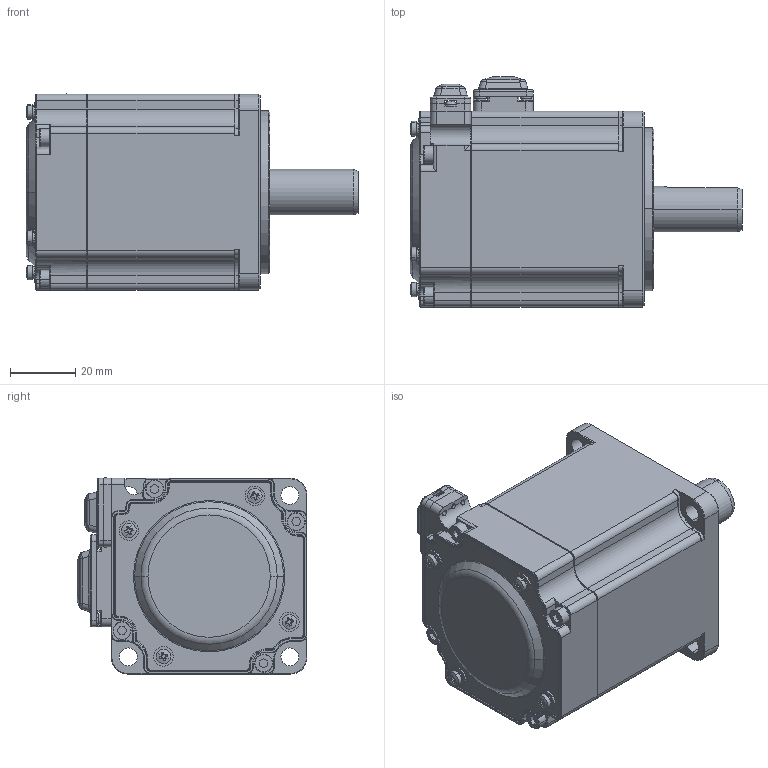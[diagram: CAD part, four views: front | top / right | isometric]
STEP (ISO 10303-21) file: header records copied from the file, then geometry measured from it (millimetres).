
FILE_DESCRIPTION (( 'STEP AP214' ), '1' );
FILE_NAME ('200W眻脣萇儂.STEP', '2024-10-13T07:36:35', ( 'Windows 蚚誧' ), ( 'Organization' ), 'SwSTEP 2.0', 'SolidWorks 2021', '' );
FILE_SCHEMA (( 'AUTOMOTIVE_DESIGN' ));
Length unit declared in the file: millimetre
Products named in the file (1): 200W眻脣萇儂
Bounding box: 101.8 x 70.5 x 60.1 mm (x, y, z)
Surface area: 30018.4 mm2 (no closed solid volume)
Topology: 0 solids, 38 shells, 770 faces, 2277 edges, 1510 vertices
Faces by surface type: plane 321, cylinder 271, cone 91, torus 45, bspline 34, sphere 8
Entity records: 37258 total; most frequent: CARTESIAN_POINT 8447, DIRECTION 4418, ORIENTED_EDGE 3907, EDGE_CURVE 2273, AXIS2_PLACEMENT_3D 1687, VERTEX_POINT 1510, LINE 1044, VECTOR 1044
